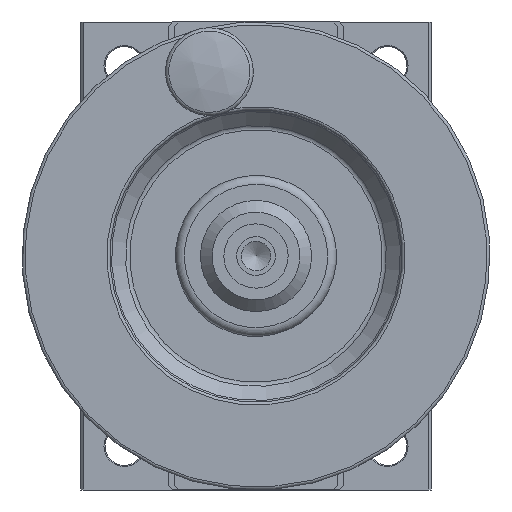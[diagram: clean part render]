
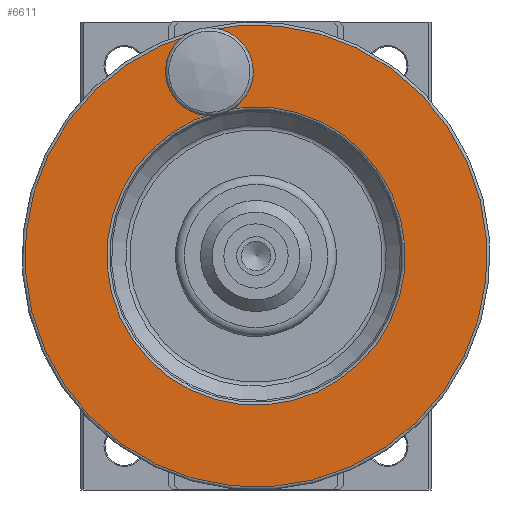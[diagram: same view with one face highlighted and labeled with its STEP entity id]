
A CAD part, left-side view. The second image highlights one B-rep face of the part: STEP entity #6611.
In plain terms, the highlighted planar face has unit normal (-1, 0, 0).
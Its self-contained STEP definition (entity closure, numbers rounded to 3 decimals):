
#47 = FACE_BOUND ( 'NONE', #6838, .T. ) ;
#269 = AXIS2_PLACEMENT_3D ( 'NONE', #3343, #1581, #4232 ) ;
#372 = CARTESIAN_POINT ( 'NONE',  ( -73.5, 19.06, -7.756 ) ) ;
#817 = PLANE ( 'NONE',  #8022 ) ;
#1581 = DIRECTION ( 'NONE',  ( -1., 0., 0. ) ) ;
#2011 = EDGE_CURVE ( 'NONE', #5349, #5349, #9144, .T. ) ;
#2395 = ORIENTED_EDGE ( 'NONE', *, *, #2011, .T. ) ;
#2418 = EDGE_LOOP ( 'NONE', ( #10554 ) ) ;
#2935 = EDGE_LOOP ( 'NONE', ( #6861 ) ) ;
#3154 = AXIS2_PLACEMENT_3D ( 'NONE', #10490, #10714, #6323 ) ;
#3259 = CIRCLE ( 'NONE', #269, 39.5 ) ;
#3343 = CARTESIAN_POINT ( 'NONE',  ( -73.5, 14., -40. ) ) ;
#3979 = AXIS2_PLACEMENT_3D ( 'NONE', #5664, #5773, #7491 ) ;
#4120 = DIRECTION ( 'NONE',  ( 0., -0.969, 0.245 ) ) ;
#4232 = DIRECTION ( 'NONE',  ( 0., -0.969, 0.245 ) ) ;
#4674 = CIRCLE ( 'NONE', #3979, 3.001 ) ;
#5349 = VERTEX_POINT ( 'NONE', #6228 ) ;
#5664 = CARTESIAN_POINT ( 'NONE',  ( -73.5, 21.969, -8.492 ) ) ;
#5773 = DIRECTION ( 'NONE',  ( 1., 0., 0. ) ) ;
#5996 = VERTEX_POINT ( 'NONE', #10163 ) ;
#6228 = CARTESIAN_POINT ( 'NONE',  ( -73.5, -10.722, -33.747 ) ) ;
#6243 = EDGE_CURVE ( 'NONE', #7931, #7931, #4674, .T. ) ;
#6323 = DIRECTION ( 'NONE',  ( 0., -0.969, 0.245 ) ) ;
#6611 = ADVANCED_FACE ( 'NONE', ( #6767, #47, #7499 ), #817, .F. ) ;
#6637 = EDGE_CURVE ( 'NONE', #5996, #5996, #3259, .T. ) ;
#6767 = FACE_BOUND ( 'NONE', #2935, .T. ) ;
#6838 = EDGE_LOOP ( 'NONE', ( #2395 ) ) ;
#6861 = ORIENTED_EDGE ( 'NONE', *, *, #6243, .T. ) ;
#7446 = CARTESIAN_POINT ( 'NONE',  ( -73.5, 4.192, -78.779 ) ) ;
#7491 = DIRECTION ( 'NONE',  ( 0., -0.969, 0.245 ) ) ;
#7499 = FACE_OUTER_BOUND ( 'NONE', #2418, .T. ) ;
#7931 = VERTEX_POINT ( 'NONE', #372 ) ;
#8022 = AXIS2_PLACEMENT_3D ( 'NONE', #7446, #10891, #4120 ) ;
#9144 = CIRCLE ( 'NONE', #3154, 25.5 ) ;
#10163 = CARTESIAN_POINT ( 'NONE',  ( -73.5, -24.294, -30.315 ) ) ;
#10490 = CARTESIAN_POINT ( 'NONE',  ( -73.5, 14., -40. ) ) ;
#10554 = ORIENTED_EDGE ( 'NONE', *, *, #6637, .T. ) ;
#10714 = DIRECTION ( 'NONE',  ( 1., 0., 0. ) ) ;
#10891 = DIRECTION ( 'NONE',  ( 1., 0., 0. ) ) ;
